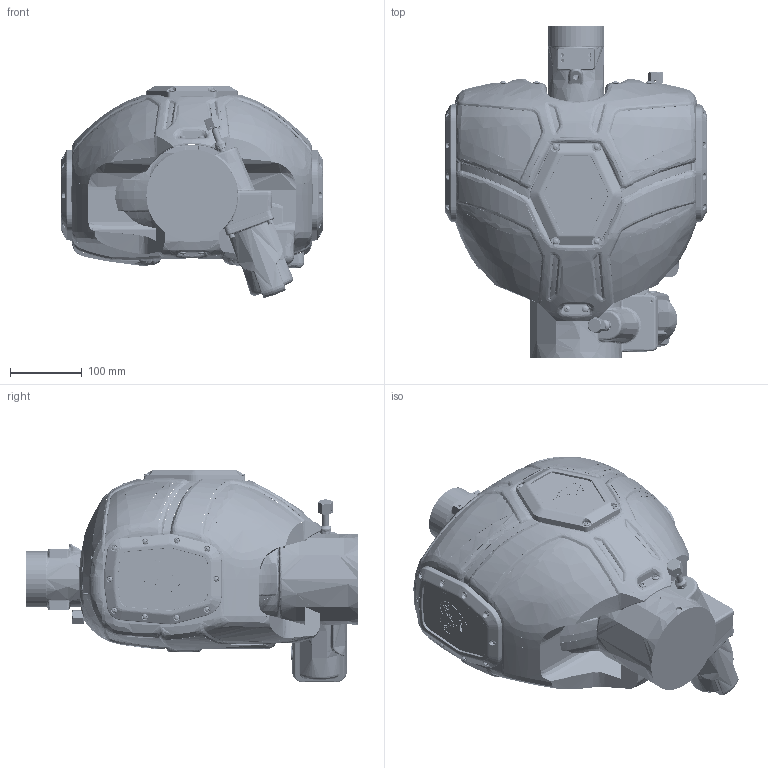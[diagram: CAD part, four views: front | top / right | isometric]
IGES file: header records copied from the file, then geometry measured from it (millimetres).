
Start section: SolidWorks IGES file using analytic representation for surfaces
Global section: file name: C:\Users\kprahl\Desktop\CobraMax Models for Website\CobraMax IGES Files\CobraMax 7200SDX2.IGS; native system: SolidWorks 2019; preprocessor: SolidWorks 2019; author: kprahl; date: 210412.170301; units: inch
Bounding box: 364.78 x 462.24 x 295.36 mm (x, y, z)
Surface area: 1369557.1 mm2 (no closed solid volume)
Topology: 0 solids, 0 shells, 9109 faces, 132590 edges, 132388 vertices
Faces by surface type: revolution 4561, bspline 4548
